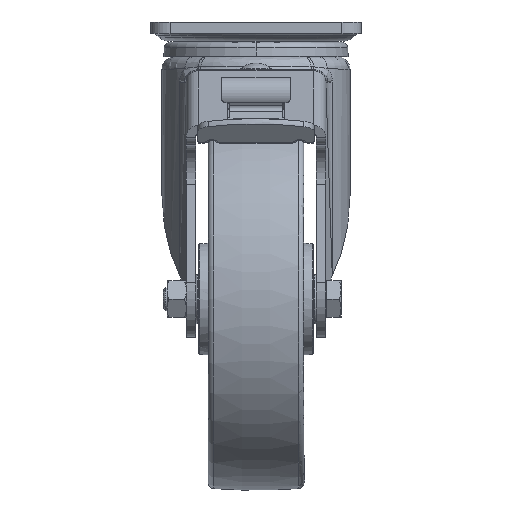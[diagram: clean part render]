
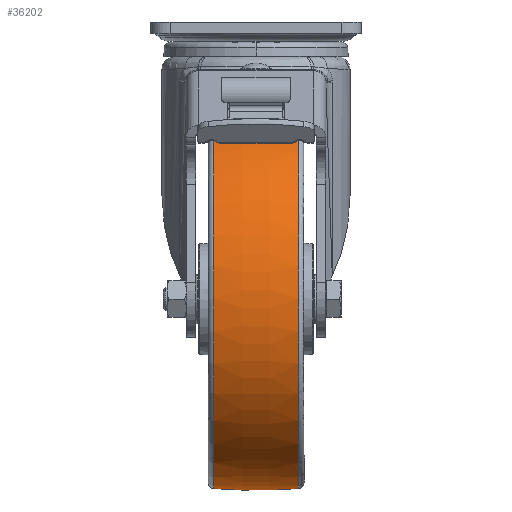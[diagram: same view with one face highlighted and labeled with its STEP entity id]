
A CAD part, top view. The second image highlights one B-rep face of the part: STEP entity #36202.
In plain terms, the highlighted toroidal (fillet/blend) face has major radius 200 mm and minor radius 300 mm.
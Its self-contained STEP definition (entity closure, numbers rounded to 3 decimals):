
#7121 = ORIENTED_EDGE ( 'NONE', *, *, #126568, .T. ) ;
#7683 = CARTESIAN_POINT ( 'NONE',  ( 0., 200., 0. ) ) ;
#10895 = CIRCLE ( 'NONE', #47407, 300. ) ;
#15639 = VERTEX_POINT ( 'NONE', #90802 ) ;
#20797 = DIRECTION ( 'NONE',  ( 0., -1., 0. ) ) ;
#22034 = EDGE_LOOP ( 'NONE', ( #7121, #106434, #103400, #68941 ) ) ;
#31102 = CARTESIAN_POINT ( 'NONE',  ( -22.222, 99.176, 0. ) ) ;
#32493 = CARTESIAN_POINT ( 'NONE',  ( -22.222, 0., 0. ) ) ;
#36202 = ADVANCED_FACE ( 'NONE', ( #101543 ), #40662, .T. ) ;
#37775 = AXIS2_PLACEMENT_3D ( 'NONE', #32493, #93722, #20797 ) ;
#40662 = TOROIDAL_SURFACE ( 'NONE', #40791, -200., 300. ) ;
#40791 = AXIS2_PLACEMENT_3D ( 'NONE', #90473, #126544, #53784 ) ;
#42322 = CARTESIAN_POINT ( 'NONE',  ( 0., -200., 0. ) ) ;
#47407 = AXIS2_PLACEMENT_3D ( 'NONE', #7683, #81194, #92810 ) ;
#52771 = CARTESIAN_POINT ( 'NONE',  ( 22.222, 0., 0. ) ) ;
#53784 = DIRECTION ( 'NONE',  ( 0., 1., 0. ) ) ;
#57222 = CIRCLE ( 'NONE', #77920, 300. ) ;
#62062 = VERTEX_POINT ( 'NONE', #86438 ) ;
#65267 = DIRECTION ( 'NONE',  ( 0., 0., 1. ) ) ;
#66804 = DIRECTION ( 'NONE',  ( 0.074, 0.997, 0. ) ) ;
#68941 = ORIENTED_EDGE ( 'NONE', *, *, #130805, .T. ) ;
#74205 = EDGE_CURVE ( 'NONE', #15639, #62062, #88602, .T. ) ;
#75791 = VERTEX_POINT ( 'NONE', #31102 ) ;
#77920 = AXIS2_PLACEMENT_3D ( 'NONE', #42322, #65267, #66804 ) ;
#81194 = DIRECTION ( 'NONE',  ( 0., 0., -1. ) ) ;
#86438 = CARTESIAN_POINT ( 'NONE',  ( 22.222, 99.176, 0. ) ) ;
#88602 = CIRCLE ( 'NONE', #130889, 99.176 ) ;
#90473 = CARTESIAN_POINT ( 'NONE',  ( 0., 0., 0. ) ) ;
#90726 = CARTESIAN_POINT ( 'NONE',  ( -22.222, -99.176, 0. ) ) ;
#90802 = CARTESIAN_POINT ( 'NONE',  ( 22.222, -99.176, 0. ) ) ;
#92810 = DIRECTION ( 'NONE',  ( 0.074, -0.997, 0. ) ) ;
#93722 = DIRECTION ( 'NONE',  ( 1., 0., 0. ) ) ;
#101543 = FACE_OUTER_BOUND ( 'NONE', #22034, .T. ) ;
#103400 = ORIENTED_EDGE ( 'NONE', *, *, #74205, .F. ) ;
#106434 = ORIENTED_EDGE ( 'NONE', *, *, #139820, .F. ) ;
#113895 = DIRECTION ( 'NONE',  ( 0., -1., 0. ) ) ;
#116041 = CIRCLE ( 'NONE', #37775, 99.176 ) ;
#117484 = VERTEX_POINT ( 'NONE', #90726 ) ;
#126544 = DIRECTION ( 'NONE',  ( 1., 0., 0. ) ) ;
#126568 = EDGE_CURVE ( 'NONE', #117484, #75791, #116041, .T. ) ;
#130805 = EDGE_CURVE ( 'NONE', #15639, #117484, #10895, .T. ) ;
#130889 = AXIS2_PLACEMENT_3D ( 'NONE', #52771, #151507, #113895 ) ;
#139820 = EDGE_CURVE ( 'NONE', #62062, #75791, #57222, .T. ) ;
#151507 = DIRECTION ( 'NONE',  ( 1., 0., 0. ) ) ;
